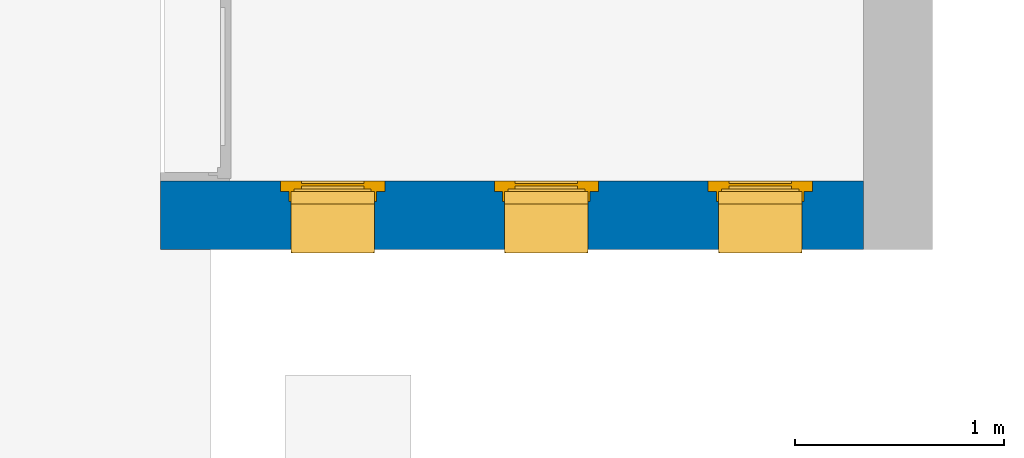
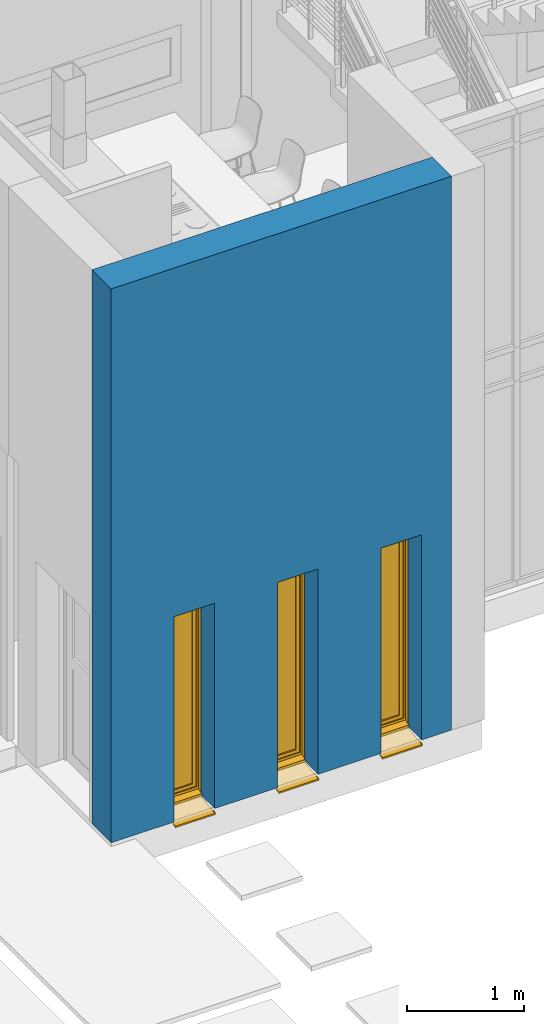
# One storey, part 4 of 40: 3 windows, 1 wall, 3 openings.
"""IFC2X3 building model written with IfcOpenShell, lengths in metres."""

from ifc_helpers import new_model, entity, si_unit, converted_unit, derived_unit, direction, frame, frame_2d, origin, place, context, subcontext, project, spatial, rectangle, extrude, faceted_brep, source, transform, mapped, material, material_list, layer, layer_set, layer_usage, type_object, type_shapes, element, fill, save


model = new_model("IFC2X3")

# Units and contexts
model_context = context("Model", 3, precision=1e-05, world=origin(), true_north=direction((6.12303176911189e-17, 1.0)))
body_context = subcontext(model_context, "Body", "Model", "MODEL_VIEW")
ifc_project = project(units=[si_unit("LENGTHUNIT", "METRE"), si_unit("AREAUNIT", "SQUARE_METRE"), si_unit("VOLUMEUNIT", "CUBIC_METRE"), converted_unit("PLANEANGLEUNIT", "DEGREE", entity("IfcRatioMeasure", 0.0174532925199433), si_unit("PLANEANGLEUNIT", "RADIAN"), dimensions=[0, 0, 0, 0, 0, 0, 0]), si_unit("MASSUNIT", "GRAM", prefix="KILO"), derived_unit("MASSDENSITYUNIT", [(si_unit("MASSUNIT", "GRAM", prefix="KILO"), 1), (si_unit("LENGTHUNIT", "METRE"), -3)]), si_unit("TIMEUNIT", "SECOND"), si_unit("FREQUENCYUNIT", "HERTZ"), si_unit("THERMODYNAMICTEMPERATUREUNIT", "DEGREE_CELSIUS"), derived_unit("THERMALTRANSMITTANCEUNIT", [(si_unit("MASSUNIT", "GRAM", prefix="KILO"), 1), (si_unit("THERMODYNAMICTEMPERATUREUNIT", "KELVIN"), -1), (si_unit("TIMEUNIT", "SECOND"), -3)]), derived_unit("VOLUMETRICFLOWRATEUNIT", [(si_unit("LENGTHUNIT", "METRE"), 3), (si_unit("TIMEUNIT", "SECOND"), -1)]), si_unit("ELECTRICCURRENTUNIT", "AMPERE"), si_unit("ELECTRICVOLTAGEUNIT", "VOLT"), si_unit("POWERUNIT", "WATT"), si_unit("FORCEUNIT", "NEWTON", prefix="KILO"), si_unit("ILLUMINANCEUNIT", "LUX"), si_unit("LUMINOUSFLUXUNIT", "LUMEN"), si_unit("LUMINOUSINTENSITYUNIT", "CANDELA"), derived_unit("USERDEFINED", [(si_unit("MASSUNIT", "GRAM", prefix="KILO"), -1), (si_unit("LENGTHUNIT", "METRE"), -2), (si_unit("TIMEUNIT", "SECOND"), 3), (si_unit("LUMINOUSFLUXUNIT", "LUMEN"), 1)]), derived_unit("LINEARVELOCITYUNIT", [(si_unit("LENGTHUNIT", "METRE"), 1), (si_unit("TIMEUNIT", "SECOND"), -1)]), si_unit("PRESSUREUNIT", "PASCAL"), derived_unit("USERDEFINED", [(si_unit("LENGTHUNIT", "METRE"), -2), (si_unit("MASSUNIT", "GRAM", prefix="KILO"), 1), (si_unit("TIMEUNIT", "SECOND"), -2)])], contexts=[model_context])

# Site, building, storey
site_placement = place(None, origin())
site = spatial("IfcSite", under=ifc_project, at=site_placement, Name="Surface", CompositionType="ELEMENT")
building_placement = place(site_placement, origin())
building = spatial("IfcBuilding", under=site, at=building_placement, CompositionType="ELEMENT")
storey_placement = place(building_placement, origin())
storey = spatial("IfcBuildingStorey", under=building, at=storey_placement, Name="RDC", CompositionType="ELEMENT", Elevation=-1.0941605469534e-13)

# Wall, openings, windows
ifc_material_1 = material(Name="Maçonnerie - Enduit")
ifc_layer_1 = layer(ifc_material_1, 0.02)
ifc_material_2 = material(Name="Blocs béton manufacturés")
ifc_layer_2 = layer(ifc_material_2, 0.2)
ifc_material_3 = material(Name="vide")
ifc_layer_3 = layer(ifc_material_3, 0.01)
ifc_material_4 = material(Name="Maçonnerie - Isolant")
ifc_layer_4 = layer(ifc_material_4, 0.09)
ifc_material_5 = material(Name="Plâtre")
ifc_layer_5 = layer(ifc_material_5, 0.01)
ifc_layer_set = layer_set([ifc_layer_1, ifc_layer_2, ifc_layer_3, ifc_layer_4, ifc_layer_5], Name="Mur de base:M7 Ext. Crépis 2 + BBMC 20 + Isolant 11")
ifc_layer_usage = layer_usage(ifc_layer_set, "AXIS2", "NEGATIVE", 0.165)
wall_type = type_object("IfcWallType", Name="Mur de base:M7 Ext. Crépis 2 + BBMC 20 + Isolant 11", PredefinedType="STANDARD", material=ifc_layer_set)
wall_placement = place(storey_placement, frame((-1.6324888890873, -0.357989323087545, 0.0), z_axis=(0.0, 0.0, 1.0), x_axis=(-1.0, 0.0, 0.0)))
wall = element("IfcWallStandardCase", 1, at=wall_placement, inside=storey, type_object=wall_type, material=ifc_layer_usage, Name="Mur de base:M7 Ext. Crépis 2 + BBMC 20 + Isolant 11", ObjectType="Mur de base:M7 Ext. Crépis 2 + BBMC 20 + Isolant 11", context=body_context, shape_type="SweptSolid", body=[
    extrude(rectangle(XDim=3.37, YDim=0.33, at=frame_2d((1.685, 2.77555756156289e-17), x_axis=(-1.0, 0.0))), origin(), (0.0, 0.0, 1.0), 5.80000000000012),
])
opening_1_placement = place(wall_placement, frame((2.795, 0.499999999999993, -0.0764859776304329), z_axis=(0.0, 0.0, 1.0), x_axis=(-1.0, 0.0, 0.0)))
opening_1 = element("IfcOpeningElement", 2, at=opening_1_placement, cuts=wall, Name="Mur de base:M7 Ext. Crépis 2 + BBMC 20 + Isolant 11", ObjectType="Opening", context=body_context, shape_type="Brep", body=[
    faceted_brep([(0.45, 0.585000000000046, 0.0764859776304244), (0.45, 0.564999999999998, 0.0764859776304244), (0.45, 0.564999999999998, 2.22648597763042), (0.449999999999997, 0.0, 2.22648597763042), (0.449999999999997, 0.0, 0.0), (0.45, 0.585000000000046, 0.0614859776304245), (0.0500000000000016, 1.0, 0.0764859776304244), (0.05, 0.665000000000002, 0.0764859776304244), (0.05, 0.665000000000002, 2.22648597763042), (0.0500000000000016, 1.0, 2.22648597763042), (0.450000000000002, 1.0, 0.0764859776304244), (0.45, 0.665, 0.0764859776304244), (0.499999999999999, 0.665, 0.0764859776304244), (0.499999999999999, 0.615000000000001, 0.0764859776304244), (0.459999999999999, 0.615000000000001, 0.0764859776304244), (0.459999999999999, 0.564999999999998, 0.0764859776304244), (0.0499999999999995, 0.585000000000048, 0.0764859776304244), (0.0499999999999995, 0.564999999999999, 0.0764859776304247), (0.0399999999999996, 0.564999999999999, 0.0764859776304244), (0.0399999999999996, 0.615000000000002, 0.0764859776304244), (0.0, 0.615000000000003, 0.0764859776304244), (0.0, 0.665000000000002, 0.0764859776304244), (0.450000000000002, 1.0, 2.22648597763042), (0.0499999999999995, 0.564999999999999, 2.22648597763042), (0.0499999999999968, 0.0, 2.22648597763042), (0.0499999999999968, 0.0, 0.0), (0.0499999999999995, 0.585000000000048, 0.0614859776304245), (0.499999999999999, 0.665, 2.27648597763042), (0.499999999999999, 0.615000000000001, 2.27648597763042), (0.0, 0.615000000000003, 2.27648597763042), (0.0399999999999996, 0.615000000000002, 2.23648597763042), (0.459999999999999, 0.615000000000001, 2.23648597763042), (0.459999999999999, 0.564999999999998, 2.23648597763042), (0.039999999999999, 0.564999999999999, 2.23648597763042), (0.45, 0.665, 2.22648597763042), (0.0, 0.665000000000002, 2.27648597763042)], [[[0, 1, 2, 3, 4, 5]], [[6, 7, 8, 9]], [[10, 11, 12, 13, 14, 15, 1, 0, 16, 17, 18, 19, 20, 21, 7, 6]], [[10, 6, 9, 22]], [[3, 2, 23, 24]], [[3, 24, 25, 4]], [[4, 25, 26, 5]], [[5, 26, 16, 0]], [[12, 27, 28, 13]], [[13, 28, 29, 20, 19, 30, 31, 14]], [[14, 31, 32, 15]], [[15, 32, 33, 18, 17, 23, 2, 1]], [[11, 34, 8, 7, 21, 35, 27, 12]], [[27, 35, 29, 28]], [[30, 33, 32, 31]], [[29, 35, 21, 20]], [[19, 18, 33, 30]], [[9, 8, 34, 22]], [[24, 23, 17, 16, 26, 25]], [[22, 34, 11, 10]]]),
])
opening_2_placement = place(wall_placement, frame((1.77, 0.499999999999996, -0.0764859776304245), z_axis=(0.0, 0.0, 1.0), x_axis=(-1.0, 0.0, 0.0)))
opening_2 = element("IfcOpeningElement", 3, at=opening_2_placement, cuts=wall, Name="Mur de base:M7 Ext. Crépis 2 + BBMC 20 + Isolant 11", ObjectType="Opening", context=body_context, shape_type="Brep", body=[
    faceted_brep([(0.45, 0.585000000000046, 0.0764859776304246), (0.45, 0.564999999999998, 0.0764859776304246), (0.45, 0.564999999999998, 2.22648597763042), (0.449999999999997, 0.0, 2.22648597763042), (0.449999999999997, 0.0, 0.0), (0.45, 0.585000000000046, 0.0614859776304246), (0.0500000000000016, 1.0, 0.0764859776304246), (0.05, 0.665000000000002, 0.0764859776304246), (0.05, 0.665000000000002, 2.22648597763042), (0.0500000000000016, 1.0, 2.22648597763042), (0.450000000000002, 1.0, 0.0764859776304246), (0.45, 0.665000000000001, 0.0764859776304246), (0.499999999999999, 0.665, 0.0764859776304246), (0.499999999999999, 0.615000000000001, 0.0764859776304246), (0.459999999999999, 0.615000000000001, 0.0764859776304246), (0.459999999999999, 0.564999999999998, 0.0764859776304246), (0.0499999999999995, 0.585000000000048, 0.0764859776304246), (0.0499999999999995, 0.564999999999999, 0.0764859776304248), (0.0399999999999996, 0.564999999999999, 0.0764859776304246), (0.0399999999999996, 0.615000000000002, 0.0764859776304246), (0.0, 0.615000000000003, 0.0764859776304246), (0.0, 0.665000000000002, 0.0764859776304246), (0.450000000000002, 1.0, 2.22648597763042), (0.0499999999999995, 0.564999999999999, 2.22648597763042), (0.0499999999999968, 0.0, 2.22648597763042), (0.0499999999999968, 0.0, 0.0), (0.0499999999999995, 0.585000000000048, 0.0614859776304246), (0.499999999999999, 0.665, 2.27648597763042), (0.499999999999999, 0.615000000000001, 2.27648597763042), (0.0, 0.615000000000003, 2.27648597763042), (0.0399999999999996, 0.615000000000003, 2.23648597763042), (0.459999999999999, 0.615000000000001, 2.23648597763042), (0.459999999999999, 0.564999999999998, 2.23648597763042), (0.039999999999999, 0.564999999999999, 2.23648597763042), (0.45, 0.665000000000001, 2.22648597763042), (0.0, 0.665000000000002, 2.27648597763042)], [[[0, 1, 2, 3, 4, 5]], [[6, 7, 8, 9]], [[10, 11, 12, 13, 14, 15, 1, 0, 16, 17, 18, 19, 20, 21, 7, 6]], [[10, 6, 9, 22]], [[3, 2, 23, 24]], [[3, 24, 25, 4]], [[4, 25, 26, 5]], [[5, 26, 16, 0]], [[12, 27, 28, 13]], [[13, 28, 29, 20, 19, 30, 31, 14]], [[14, 31, 32, 15]], [[15, 32, 33, 18, 17, 23, 2, 1]], [[11, 34, 8, 7, 21, 35, 27, 12]], [[27, 35, 29, 28]], [[30, 33, 32, 31]], [[29, 35, 21, 20]], [[19, 18, 33, 30]], [[9, 8, 34, 22]], [[24, 23, 17, 16, 26, 25]], [[22, 34, 11, 10]]]),
])
opening_3_placement = place(wall_placement, frame((0.744999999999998, 0.5, -0.0764859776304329), z_axis=(0.0, 0.0, 1.0), x_axis=(-1.0, 0.0, 0.0)))
opening_3 = element("IfcOpeningElement", 4, at=opening_3_placement, cuts=wall, Name="Mur de base:M7 Ext. Crépis 2 + BBMC 20 + Isolant 11", ObjectType="Opening", context=body_context, shape_type="Brep", body=[
    faceted_brep([(0.45, 0.585000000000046, 0.0764859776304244), (0.45, 0.564999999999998, 0.0764859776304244), (0.45, 0.564999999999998, 2.22648597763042), (0.449999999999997, 0.0, 2.22648597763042), (0.449999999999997, 0.0, 0.0), (0.45, 0.585000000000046, 0.0614859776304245), (0.0500000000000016, 1.0, 0.0764859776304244), (0.05, 0.665000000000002, 0.0764859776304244), (0.05, 0.665000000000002, 2.22648597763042), (0.0500000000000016, 1.0, 2.22648597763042), (0.450000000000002, 1.0, 0.0764859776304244), (0.45, 0.665, 0.0764859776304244), (0.499999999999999, 0.665, 0.0764859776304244), (0.499999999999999, 0.615000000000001, 0.0764859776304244), (0.46, 0.615000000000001, 0.0764859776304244), (0.459999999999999, 0.564999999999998, 0.0764859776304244), (0.0499999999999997, 0.585000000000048, 0.0764859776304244), (0.0499999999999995, 0.564999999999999, 0.0764859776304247), (0.0399999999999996, 0.564999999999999, 0.0764859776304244), (0.0399999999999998, 0.615000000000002, 0.0764859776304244), (0.0, 0.615000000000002, 0.0764859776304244), (0.0, 0.665000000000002, 0.0764859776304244), (0.450000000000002, 1.0, 2.22648597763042), (0.0499999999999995, 0.564999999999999, 2.22648597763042), (0.0499999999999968, 0.0, 2.22648597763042), (0.0499999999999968, 0.0, 0.0), (0.0499999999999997, 0.585000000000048, 0.0614859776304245), (0.5, 0.665, 2.27648597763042), (0.499999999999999, 0.615000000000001, 2.27648597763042), (0.0, 0.615000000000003, 2.27648597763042), (0.0399999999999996, 0.615000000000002, 2.23648597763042), (0.459999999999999, 0.615000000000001, 2.23648597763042), (0.459999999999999, 0.564999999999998, 2.23648597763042), (0.0399999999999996, 0.564999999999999, 2.23648597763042), (0.45, 0.665, 2.22648597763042), (0.0, 0.665000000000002, 2.27648597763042)], [[[0, 1, 2, 3, 4, 5]], [[6, 7, 8, 9]], [[10, 11, 12, 13, 14, 15, 1, 0, 16, 17, 18, 19, 20, 21, 7, 6]], [[10, 6, 9, 22]], [[3, 2, 23, 24]], [[3, 24, 25, 4]], [[4, 25, 26, 5]], [[5, 26, 16, 0]], [[12, 27, 28, 13]], [[13, 28, 29, 20, 19, 30, 31, 14]], [[14, 31, 32, 15]], [[15, 32, 33, 18, 17, 23, 2, 1]], [[11, 34, 8, 7, 21, 35, 27, 12]], [[27, 35, 29, 28]], [[30, 33, 32, 31]], [[29, 35, 21, 20]], [[19, 18, 33, 30]], [[9, 8, 34, 22]], [[24, 23, 17, 16, 26, 25]], [[22, 34, 11, 10]]]),
])
ifc_material_6 = material(Name="Fenêtre - Appui")
ifc_material_7 = material(Name="Fenêtre - Vitrage")
ifc_material_8 = material(Name="Fenêtre - Cadre")
ifc_material_list_1 = material_list([ifc_material_6, ifc_material_7, ifc_material_8])
ifc_material_list_2 = material_list([ifc_material_6, ifc_material_7, ifc_material_8])
window_style = type_object("IfcWindowStyle", Name="0.40m x2.15m", ConstructionType="NOTDEFINED", OperationType="SINGLE_PANEL", ParameterTakesPrecedence=False, Sizeable=False, material=ifc_material_list_2)
shared_shape = source(origin(), body_context, "Body", "Brep", [
    faceted_brep([(0.45, -0.319999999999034, 0.0388885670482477), (0.45, -0.579999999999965, 0.0662156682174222), (0.45, -0.579999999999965, 0.0764859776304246), (0.45, -0.584999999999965, 0.0764859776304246), (0.45, -0.584999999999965, 0.061485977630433), (0.45, -0.324999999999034, 0.0341588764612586), (0.45, -0.324999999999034, 0.0238583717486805), (0.45, -0.319999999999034, 0.0233328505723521), (0.0499999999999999, -0.319999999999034, 0.0388885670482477), (0.0499999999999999, -0.319999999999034, 0.0233328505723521), (0.0499999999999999, -0.324999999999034, 0.0238583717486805), (0.0499999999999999, -0.324999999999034, 0.0341588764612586), (0.0499999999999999, -0.584999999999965, 0.061485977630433), (0.0499999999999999, -0.584999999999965, 0.0764859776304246), (0.0499999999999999, -0.579999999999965, 0.0764859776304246), (0.0499999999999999, -0.579999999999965, 0.0662156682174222)], [[[0, 1, 2, 3, 4, 5, 6, 7]], [[8, 9, 10, 11, 12, 13, 14, 15]], [[1, 0, 8, 15]], [[2, 1, 15, 14]], [[3, 2, 14, 13]], [[4, 3, 13, 12]], [[5, 4, 12, 11]], [[6, 5, 11, 10]], [[7, 6, 10, 9]], [[0, 7, 9, 8]]]),
    faceted_brep([(0.0500000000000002, -0.319999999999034, 0.0403144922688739), (0.0500000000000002, -0.319999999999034, 0.0388885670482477), (0.0499999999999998, -0.579999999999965, 0.0662156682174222), (0.0499999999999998, -0.579999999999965, 0.0712432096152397), (0.0500000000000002, -0.323581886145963, 0.0442925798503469), (0.0500000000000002, -0.321027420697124, 0.0429910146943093), (0.0549999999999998, -0.579999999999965, 0.0712432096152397), (0.0549999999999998, -0.579999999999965, 0.0662156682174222), (0.0550000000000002, -0.319999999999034, 0.0388885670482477), (0.0550000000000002, -0.319999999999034, 0.0403144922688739), (0.0550000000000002, -0.321027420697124, 0.0429910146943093), (0.0550000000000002, -0.323581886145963, 0.0442925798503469)], [[[0, 1, 2, 3, 4, 5]], [[6, 7, 8, 9, 10, 11]], [[2, 1, 8, 7]], [[3, 2, 7, 6]], [[4, 3, 6, 11]], [[4, 11, 10, 5]], [[10, 9, 0, 5]], [[1, 0, 9, 8]]]),
    faceted_brep([(0.445, -0.319999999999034, 0.0403144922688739), (0.445, -0.319999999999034, 0.0388885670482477), (0.445, -0.579999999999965, 0.0662156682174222), (0.445, -0.579999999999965, 0.0712432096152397), (0.445, -0.323581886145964, 0.0442925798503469), (0.445, -0.321027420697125, 0.0429910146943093), (0.45, -0.579999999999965, 0.0712432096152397), (0.45, -0.579999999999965, 0.0662156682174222), (0.45, -0.319999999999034, 0.0388885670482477), (0.45, -0.319999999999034, 0.0403144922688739), (0.45, -0.321027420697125, 0.0429910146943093), (0.45, -0.323581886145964, 0.0442925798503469)], [[[0, 1, 2, 3, 4, 5]], [[6, 7, 8, 9, 10, 11]], [[2, 1, 8, 7]], [[3, 2, 7, 6]], [[4, 3, 6, 11]], [[4, 11, 10, 5]], [[10, 9, 0, 5]], [[1, 0, 9, 8]]]),
    faceted_brep([(0.0999999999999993, -0.639000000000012, 0.176485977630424), (0.0999999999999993, -0.639000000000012, 2.17648597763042), (0.4, -0.639000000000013, 2.17648597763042), (0.4, -0.639000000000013, 0.176485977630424), (0.0999999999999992, -0.651000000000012, 0.176485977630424), (0.0999999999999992, -0.651000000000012, 2.17648597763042), (0.4, -0.651000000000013, 2.17648597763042), (0.4, -0.651000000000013, 0.176485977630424)], [[[0, 1, 2, 3]], [[1, 0, 4, 5]], [[3, 2, 6, 7]], [[0, 3, 7, 4]], [[4, 7, 6, 5]], [[2, 1, 5, 6]]]),
    faceted_brep([(0.0999999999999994, -0.625000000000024, 2.17648597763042), (0.0999999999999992, -0.665000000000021, 2.17648597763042), (0.0999999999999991, -0.665000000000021, 0.176485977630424), (0.0999999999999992, -0.625000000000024, 0.176485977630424), (0.4, -0.665000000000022, 0.176485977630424), (0.4, -0.625000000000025, 0.176485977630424), (0.399999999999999, -0.665000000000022, 2.17648597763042), (0.449999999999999, -0.665000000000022, 0.126485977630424), (0.45, -0.665000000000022, 2.22648597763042), (0.0499999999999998, -0.665000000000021, 2.22648597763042), (0.0499999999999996, -0.665000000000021, 0.126485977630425), (0.4, -0.625000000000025, 2.17648597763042), (0.049999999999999, -0.625000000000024, 0.126485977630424), (0.0499999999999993, -0.625000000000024, 2.22648597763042), (0.45, -0.625000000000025, 2.22648597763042), (0.45, -0.625000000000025, 0.126485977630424)], [[[0, 1, 2, 3]], [[3, 2, 4, 5]], [[2, 1, 6, 4], [7, 8, 9, 10]], [[5, 4, 6, 11]], [[5, 11, 0, 3], [12, 13, 14, 15]], [[9, 13, 12, 10]], [[10, 12, 15, 7]], [[7, 15, 14, 8]], [[11, 6, 1, 0]], [[8, 14, 13, 9]]], outer=[[True], [True], [False, True], [True], [False, True], [True], [True], [True], [True], [True]]),
    faceted_brep([(0.0, -0.665, 0.0764859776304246), (0.0, -0.615000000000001, 0.0764859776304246), (0.0499999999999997, -0.615000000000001, 0.0764859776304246), (0.0499999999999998, -0.565000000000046, 0.0764859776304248), (0.45, -0.565000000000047, 0.0764859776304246), (0.45, -0.615000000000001, 0.0764859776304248), (0.499999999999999, -0.615000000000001, 0.0764859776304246), (0.499999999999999, -0.665, 0.0764859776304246), (0.0, -0.665, 2.27648597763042), (0.0, -0.615000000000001, 2.27648597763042), (0.499999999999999, -0.615000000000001, 2.27648597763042), (0.45, -0.615000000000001, 0.115862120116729), (0.0499999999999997, -0.615000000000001, 0.115862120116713), (0.0649999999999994, -0.615000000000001, 2.21148597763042), (0.0649999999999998, -0.615000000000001, 0.141485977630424), (0.435, -0.615000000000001, 0.141485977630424), (0.435, -0.615000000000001, 2.21148597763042), (0.0499999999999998, -0.555000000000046, 0.0997851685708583), (0.0499999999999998, -0.555000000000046, 0.0714859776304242), (0.0499999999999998, -0.565000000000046, 0.0714859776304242), (0.45, -0.565000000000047, 0.0714859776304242), (0.45, -0.555000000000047, 0.0714859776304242), (0.45, -0.555000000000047, 0.0997851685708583), (0.499999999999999, -0.665, 2.27648597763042), (0.45, -0.665, 2.22648597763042), (0.45, -0.665, 0.126485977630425), (0.0499999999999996, -0.665, 0.126485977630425), (0.0499999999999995, -0.665, 2.22648597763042), (0.0649999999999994, -0.625000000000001, 2.21148597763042), (0.0649999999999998, -0.625000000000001, 0.141485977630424), (0.435, -0.625000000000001, 0.141485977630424), (0.435, -0.625000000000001, 2.21148597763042), (0.45, -0.625000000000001, 2.22648597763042), (0.0499999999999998, -0.625000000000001, 2.22648597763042), (0.0499999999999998, -0.625000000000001, 0.126485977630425), (0.45, -0.625000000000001, 0.126485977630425)], [[[0, 1, 2, 3, 4, 5, 6, 7]], [[1, 0, 8, 9]], [[1, 9, 10, 6, 5, 11, 12, 2], [13, 14, 15, 16]], [[12, 17, 18, 19, 3, 2]], [[3, 19, 20, 4]], [[4, 20, 21, 22, 11, 5]], [[6, 10, 23, 7]], [[0, 7, 23, 8], [24, 25, 26, 27]], [[13, 28, 29, 14]], [[29, 30, 15, 14]], [[31, 16, 15, 30]], [[17, 12, 11, 22]], [[28, 31, 30, 29], [32, 33, 34, 35]], [[34, 33, 27, 26]], [[26, 25, 35, 34]], [[24, 32, 35, 25]], [[18, 17, 22, 21]], [[19, 18, 21, 20]], [[13, 16, 31, 28]], [[10, 9, 8, 23]], [[33, 32, 24, 27]]], outer=[[True], [True], [True, False], [True], [True], [True], [True], [True, False], [True], [True], [True], [True], [False, True], [True], [True], [True], [True], [True], [True], [True], [True]]),
    faceted_brep([(0.0499999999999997, -0.564999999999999, 0.0764859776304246), (0.0499999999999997, -0.615000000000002, 0.0764859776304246), (0.0399999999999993, -0.615000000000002, 0.0764859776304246), (0.0399999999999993, -0.564999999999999, 0.0764859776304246), (0.0499999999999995, -0.564999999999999, 2.22648597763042), (0.0499999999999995, -0.615000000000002, 2.22648597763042), (0.45, -0.615000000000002, 2.22648597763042), (0.45, -0.615000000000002, 0.0764859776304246), (0.46, -0.615000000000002, 0.0764859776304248), (0.46, -0.615000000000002, 2.23648597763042), (0.0399999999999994, -0.615000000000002, 2.23648597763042), (0.0399999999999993, -0.564999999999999, 2.23648597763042), (0.46, -0.564999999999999, 2.23648597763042), (0.46, -0.564999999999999, 0.0764859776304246), (0.45, -0.564999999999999, 0.0764859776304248), (0.45, -0.564999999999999, 2.22648597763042)], [[[0, 1, 2, 3]], [[1, 0, 4, 5]], [[2, 1, 5, 6, 7, 8, 9, 10]], [[3, 2, 10, 11]], [[0, 3, 11, 12, 13, 14, 15, 4]], [[6, 15, 14, 7]], [[14, 13, 8, 7]], [[12, 9, 8, 13]], [[5, 4, 15, 6]], [[11, 10, 9, 12]]]),
])
type_shapes(window_style, [shared_shape])
window_1_placement = place(opening_1_placement, frame((0.499999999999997, 0.0, 0.0), z_axis=(0.0, 0.0, 1.0), x_axis=(-1.0, 0.0, 0.0)))
window_1 = element("IfcWindow", 5, at=window_1_placement, inside=storey, type_object=window_style, material=ifc_material_list_1, Name="1 Vantail - Droit:0.40m x2.15m", ObjectType="0.40m x2.15m", OverallHeight=2.28, OverallWidth=0.5, context=body_context, shape_type="MappedRepresentation", body=[
    mapped(shared_shape, transform((0.0, 0.0, 0.0), scale=1.0)),
])
fill(opening_1, window_1)
ifc_material_list_3 = material_list([ifc_material_6, ifc_material_7, ifc_material_8])
window_2_placement = place(opening_2_placement, frame((0.499999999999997, 0.0, 0.0), z_axis=(0.0, 0.0, 1.0), x_axis=(-1.0, 0.0, 0.0)))
window_2 = element("IfcWindow", 6, at=window_2_placement, inside=storey, type_object=window_style, material=ifc_material_list_3, Name="1 Vantail - Droit:0.40m x2.15m", ObjectType="0.40m x2.15m", OverallHeight=2.28, OverallWidth=0.5, context=body_context, shape_type="MappedRepresentation", body=[
    mapped(shared_shape, transform((0.0, 0.0, 0.0), scale=1.0)),
])
fill(opening_2, window_2)
ifc_material_list_4 = material_list([ifc_material_6, ifc_material_7, ifc_material_8])
window_3_placement = place(opening_3_placement, frame((0.499999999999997, 0.0, 0.0), z_axis=(0.0, 0.0, 1.0), x_axis=(-1.0, 0.0, 0.0)))
window_3 = element("IfcWindow", 7, at=window_3_placement, inside=storey, type_object=window_style, material=ifc_material_list_4, Name="1 Vantail - Droit:0.40m x2.15m", ObjectType="0.40m x2.15m", OverallHeight=2.28, OverallWidth=0.5, context=body_context, shape_type="MappedRepresentation", body=[
    mapped(shared_shape, transform((0.0, 0.0, 0.0), scale=1.0)),
])
fill(opening_3, window_3)

save(model, "model.ifc")
